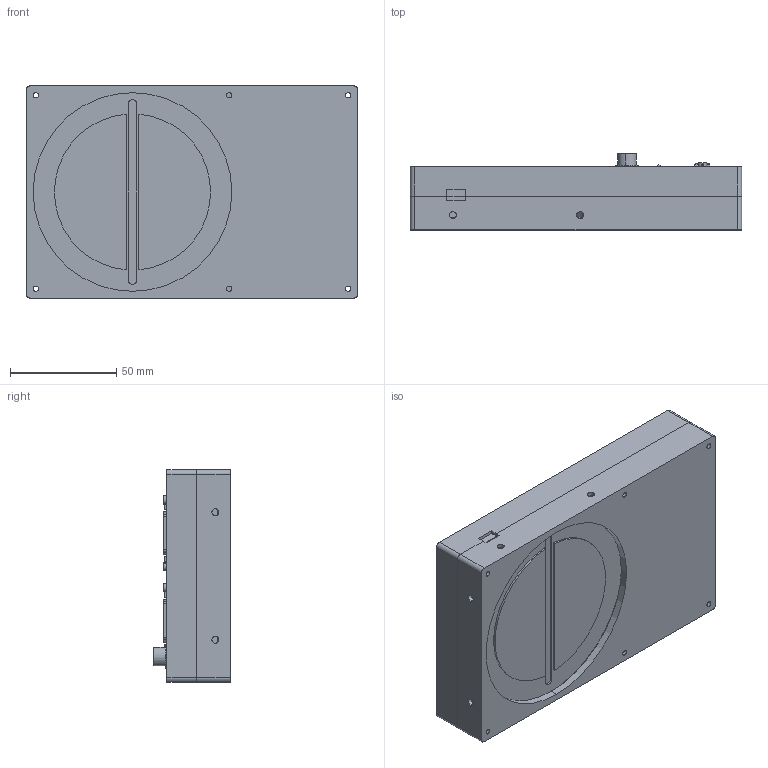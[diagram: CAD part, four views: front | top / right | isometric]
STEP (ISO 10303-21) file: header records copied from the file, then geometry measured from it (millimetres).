
FILE_DESCRIPTION (( 'STEP AP203' ), '1' );
FILE_NAME ('E.2720.010 _ B.STEP', '2012-03-08T09:28:38', ( 'E R I A' ), ( '' ), 'SwSTEP 2.0', 'SolidWorks 2011', '' );
FILE_SCHEMA (( 'CONFIG_CONTROL_DESIGN' ));
Length unit declared in the file: millimetre
Products named in the file (1): E.2720.010 _ B
Bounding box: 156 x 36.03 x 100 mm (x, y, z)
Surface area: 70319 mm2 (no closed solid volume)
Topology: 0 solids, 18 shells, 317 faces, 961 edges, 668 vertices
Faces by surface type: plane 195, cylinder 109, torus 12, bspline 1
Entity records: 10952 total; most frequent: CARTESIAN_POINT 2032, DIRECTION 1915, ORIENTED_EDGE 1666, EDGE_CURVE 961, VERTEX_POINT 668, AXIS2_PLACEMENT_3D 643, VECTOR 629, LINE 629
